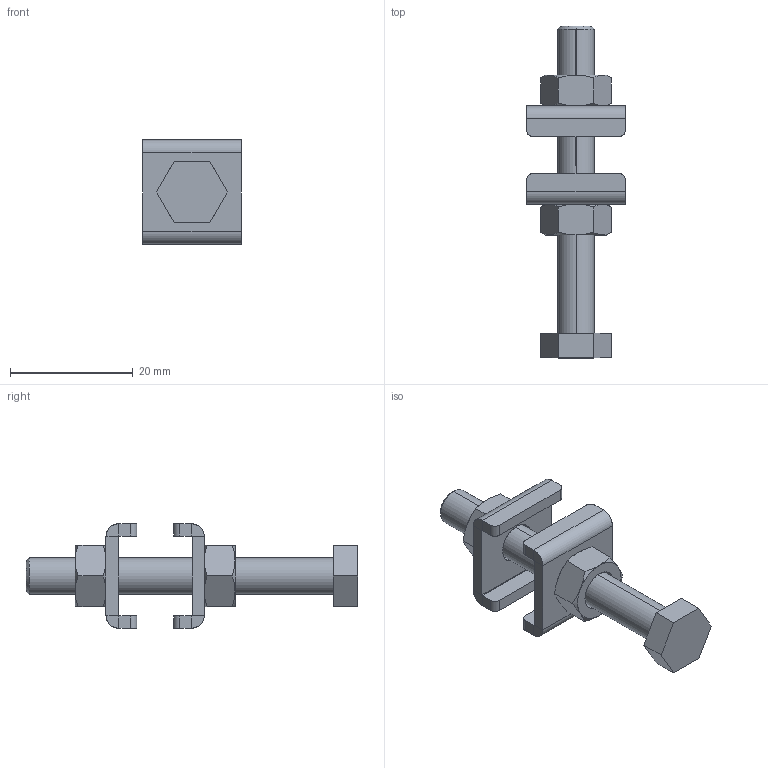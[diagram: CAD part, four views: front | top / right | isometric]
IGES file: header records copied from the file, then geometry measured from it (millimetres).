
Start section: SolidWorks IGES file using analytic representation for surfaces
Global section: file name: C:\Projetos\Ponteiras\PS\PS-M6.IGS; native system: SolidWorks 2011; preprocessor: SolidWorks 2011; author: Usuario; date: 110520.165844; units: millimetre
Bounding box: 16 x 54 x 17 mm (x, y, z)
Surface area: 3636 mm2 (no closed solid volume)
Topology: 0 solids, 0 shells, 121 faces, 1332 edges, 1332 vertices
Faces by surface type: bspline 61, revolution 60
